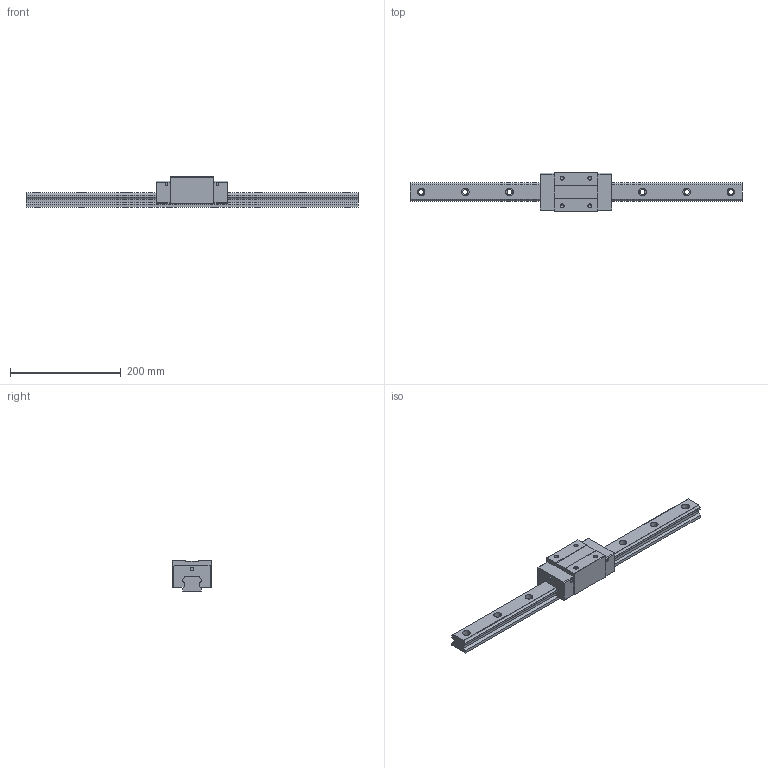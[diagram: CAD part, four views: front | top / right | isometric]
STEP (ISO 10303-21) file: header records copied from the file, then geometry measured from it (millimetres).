
FILE_DESCRIPTION (( 'STEP AP203' ), '1' );
FILE_NAME ('TRH35VN-WZ.STEP', '2024-05-17T02:27:40', ( '' ), ( '' ), 'SwSTEP 2.0', 'SolidWorks 2022', '' );
FILE_SCHEMA (( 'CONFIG_CONTROL_DESIGN' ));
Length unit declared in the file: millimetre
Products named in the file (1): TRH35VN-WZ
Bounding box: 600 x 70 x 55 mm (x, y, z)
Volume: 772574.9 mm3; surface area: 124303.5 mm2
Topology: 2 solids, 2 shells, 186 faces, 488 edges, 316 vertices
Faces by surface type: cylinder 88, plane 82, cone 16
Entity records: 5819 total; most frequent: DIRECTION 1038, CARTESIAN_POINT 983, ORIENTED_EDGE 960, EDGE_CURVE 480, AXIS2_PLACEMENT_3D 371, VERTEX_POINT 316, VECTOR 296, LINE 296
